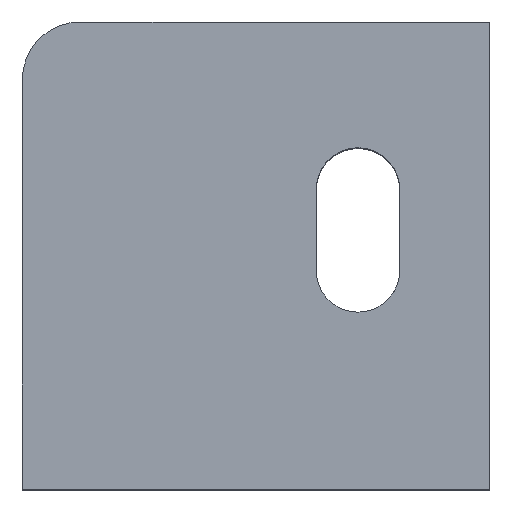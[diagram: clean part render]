
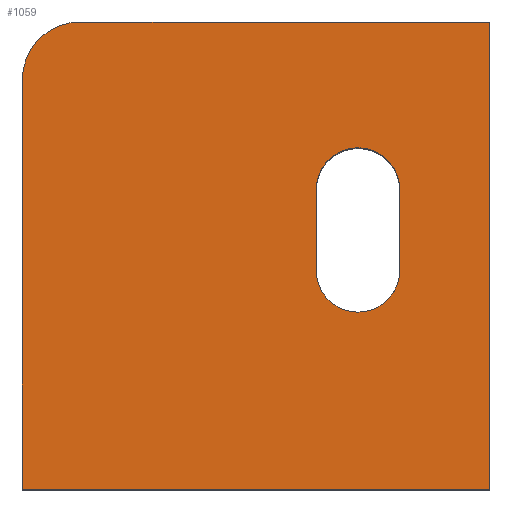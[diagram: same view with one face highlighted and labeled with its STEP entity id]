
A CAD part, top view. The second image highlights one B-rep face of the part: STEP entity #1059.
In plain terms, the highlighted planar face has unit normal (0, 0, 1).
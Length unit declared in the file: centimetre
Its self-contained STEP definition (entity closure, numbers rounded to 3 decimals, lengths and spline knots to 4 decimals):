
#4 = CARTESIAN_POINT ( 'NONE',  ( 628.7639, 468.4352, 1000. ) ) ;
#8 = EDGE_CURVE ( 'NONE', #436, #635, #422, .T. ) ;
#23 = VECTOR ( 'NONE', #2066, 100. ) ;
#70 = EDGE_CURVE ( 'NONE', #1302, #1291, #154, .T. ) ;
#109 = CARTESIAN_POINT ( 'NONE',  ( 718.1956, 641.2893, 1000. ) ) ;
#133 = LINE ( 'NONE', #2087, #1838 ) ;
#137 = CARTESIAN_POINT ( 'NONE',  ( 0., 876.9988, 1000. ) ) ;
#153 = DIRECTION ( 'NONE',  ( 0., 0., 1. ) ) ;
#154 = CIRCLE ( 'NONE', #812, 123.0012 ) ;
#156 = ORIENTED_EDGE ( 'NONE', *, *, #1978, .F. ) ;
#256 = EDGE_CURVE ( 'NONE', #722, #2001, #1534, .T. ) ;
#308 = CARTESIAN_POINT ( 'NONE',  ( 718.1956, 468.4352, 1000. ) ) ;
#318 = PLANE ( 'NONE',  #1623 ) ;
#321 = EDGE_CURVE ( 'NONE', #2043, #436, #1230, .T. ) ;
#369 = CARTESIAN_POINT ( 'NONE',  ( 628.7639, 468.4352, 1000. ) ) ;
#388 = AXIS2_PLACEMENT_3D ( 'NONE', #308, #988, #1646 ) ;
#422 = CIRCLE ( 'NONE', #1633, 89.4317 ) ;
#436 = VERTEX_POINT ( 'NONE', #827 ) ;
#545 = CARTESIAN_POINT ( 'NONE',  ( 628.7639, 641.2893, 1000. ) ) ;
#547 = ORIENTED_EDGE ( 'NONE', *, *, #8, .F. ) ;
#564 = VECTOR ( 'NONE', #715, 100. ) ;
#633 = ORIENTED_EDGE ( 'NONE', *, *, #70, .T. ) ;
#635 = VERTEX_POINT ( 'NONE', #545 ) ;
#715 = DIRECTION ( 'NONE',  ( -1., 0., 0. ) ) ;
#722 = VERTEX_POINT ( 'NONE', #1711 ) ;
#776 = CARTESIAN_POINT ( 'NONE',  ( 123.0012, 876.9988, 1000. ) ) ;
#797 = DIRECTION ( 'NONE',  ( 1., 0., 0. ) ) ;
#812 = AXIS2_PLACEMENT_3D ( 'NONE', #776, #1422, #2103 ) ;
#827 = CARTESIAN_POINT ( 'NONE',  ( 807.6273, 641.2893, 1000. ) ) ;
#853 = CARTESIAN_POINT ( 'NONE',  ( 0., 1000., 1000. ) ) ;
#881 = CARTESIAN_POINT ( 'NONE',  ( 1000., 1000., 1000. ) ) ;
#958 = ORIENTED_EDGE ( 'NONE', *, *, #256, .T. ) ;
#988 = DIRECTION ( 'NONE',  ( 0., 0., 1. ) ) ;
#1059 = ADVANCED_FACE ( 'NONE', ( #2108, #1305 ), #318, .T. ) ;
#1072 = CIRCLE ( 'NONE', #388, 89.4317 ) ;
#1174 = DIRECTION ( 'NONE',  ( 0., -1., 0. ) ) ;
#1223 = ORIENTED_EDGE ( 'NONE', *, *, #1949, .T. ) ;
#1230 = LINE ( 'NONE', #1900, #23 ) ;
#1284 = LINE ( 'NONE', #4, #1985 ) ;
#1291 = VERTEX_POINT ( 'NONE', #137 ) ;
#1302 = VERTEX_POINT ( 'NONE', #1432 ) ;
#1305 = FACE_OUTER_BOUND ( 'NONE', #1867, .T. ) ;
#1371 = DIRECTION ( 'NONE',  ( 0., 1., 0. ) ) ;
#1422 = DIRECTION ( 'NONE',  ( 0., 0., 1. ) ) ;
#1432 = CARTESIAN_POINT ( 'NONE',  ( 123.0012, 1000., 1000. ) ) ;
#1433 = DIRECTION ( 'NONE',  ( -1., 0., 0. ) ) ;
#1440 = DIRECTION ( 'NONE',  ( 0., 0., 1. ) ) ;
#1523 = CARTESIAN_POINT ( 'NONE',  ( 1000., 1000., 1000. ) ) ;
#1534 = LINE ( 'NONE', #1523, #1565 ) ;
#1539 = CARTESIAN_POINT ( 'NONE',  ( 0., 1000., 1000. ) ) ;
#1553 = EDGE_LOOP ( 'NONE', ( #156, #1908, #547, #2139 ) ) ;
#1562 = ORIENTED_EDGE ( 'NONE', *, *, #1823, .T. ) ;
#1565 = VECTOR ( 'NONE', #1371, 100. ) ;
#1607 = EDGE_CURVE ( 'NONE', #2001, #1302, #1714, .T. ) ;
#1623 = AXIS2_PLACEMENT_3D ( 'NONE', #1811, #1440, #1775 ) ;
#1633 = AXIS2_PLACEMENT_3D ( 'NONE', #109, #153, #1433 ) ;
#1646 = DIRECTION ( 'NONE',  ( -1., 0., 0. ) ) ;
#1664 = VERTEX_POINT ( 'NONE', #369 ) ;
#1682 = CARTESIAN_POINT ( 'NONE',  ( 807.6273, 468.4352, 1000. ) ) ;
#1711 = CARTESIAN_POINT ( 'NONE',  ( 1000., 0., 1000. ) ) ;
#1714 = LINE ( 'NONE', #1539, #564 ) ;
#1775 = DIRECTION ( 'NONE',  ( 1., 0., 0. ) ) ;
#1791 = CARTESIAN_POINT ( 'NONE',  ( 0., 0., 1000. ) ) ;
#1811 = CARTESIAN_POINT ( 'NONE',  ( 0., 0., 1000. ) ) ;
#1823 = EDGE_CURVE ( 'NONE', #1966, #722, #133, .T. ) ;
#1838 = VECTOR ( 'NONE', #797, 100. ) ;
#1867 = EDGE_LOOP ( 'NONE', ( #1971, #633, #1223, #1562, #958 ) ) ;
#1878 = EDGE_CURVE ( 'NONE', #635, #1664, #1284, .T. ) ;
#1900 = CARTESIAN_POINT ( 'NONE',  ( 807.6273, 641.2893, 1000. ) ) ;
#1908 = ORIENTED_EDGE ( 'NONE', *, *, #1878, .F. ) ;
#1949 = EDGE_CURVE ( 'NONE', #1291, #1966, #1961, .T. ) ;
#1961 = LINE ( 'NONE', #853, #2023 ) ;
#1966 = VERTEX_POINT ( 'NONE', #1791 ) ;
#1971 = ORIENTED_EDGE ( 'NONE', *, *, #1607, .T. ) ;
#1973 = DIRECTION ( 'NONE',  ( 0., -1., 0. ) ) ;
#1978 = EDGE_CURVE ( 'NONE', #1664, #2043, #1072, .T. ) ;
#1985 = VECTOR ( 'NONE', #1973, 100. ) ;
#2001 = VERTEX_POINT ( 'NONE', #881 ) ;
#2023 = VECTOR ( 'NONE', #1174, 100. ) ;
#2043 = VERTEX_POINT ( 'NONE', #1682 ) ;
#2066 = DIRECTION ( 'NONE',  ( 0., 1., 0. ) ) ;
#2087 = CARTESIAN_POINT ( 'NONE',  ( 0., 0., 1000. ) ) ;
#2103 = DIRECTION ( 'NONE',  ( 1., 0., 0. ) ) ;
#2108 = FACE_BOUND ( 'NONE', #1553, .T. ) ;
#2139 = ORIENTED_EDGE ( 'NONE', *, *, #321, .F. ) ;
